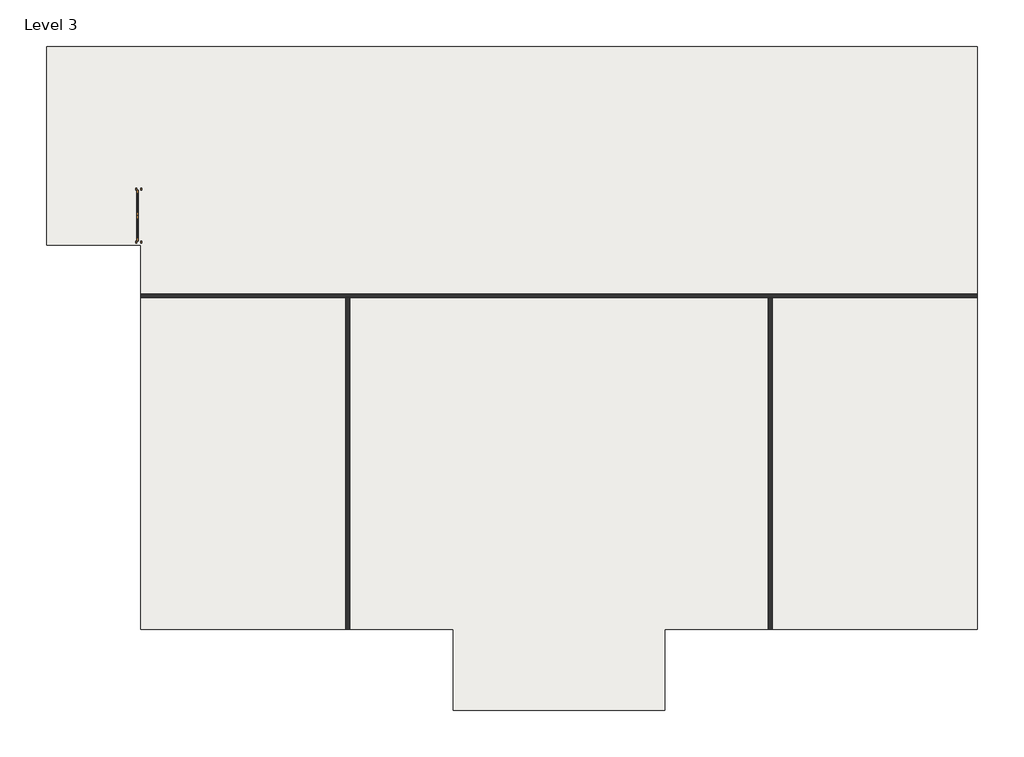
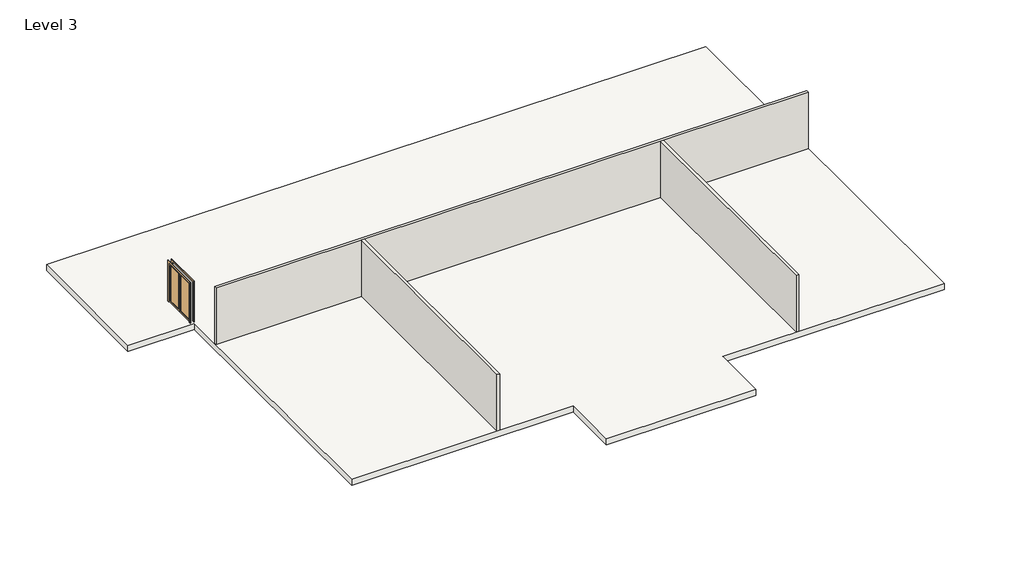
# One storey: 3 walls, 1 door, 1 slab.
"""IFC4 building model written with IfcOpenShell, lengths in millimetres."""

from ifc_helpers import new_model, si_unit, frame, origin, place, context, project, spatial, polyline, outline, extrude, faceted_brep, transform, mapped, element, save
from components import door_cb31edf2

model = new_model("IFC4")

# Units and contexts
model_context = context("Model", 3, world=origin())
ifc_project = project(units=[si_unit("LENGTHUNIT", "METRE", prefix="MILLI")], contexts=[model_context])

# Site, building, storey
site = spatial("IfcSite", under=ifc_project)
building = spatial("IfcBuilding", under=site)
storey = spatial("IfcBuildingStorey", under=building, Name="Level 3", Elevation=6096.0)

# Door
placement = place(None, origin())
door_shape = door_cb31edf2(model_context)
element("IfcDoor", 1, ObjectType="Door-Double-Glass : 72\" x 84\"", at=placement, inside=storey, context=model_context, shape_type="MappedRepresentation", body=[
    mapped(door_shape, transform((-18248.748632, 9505.1983604, 6096.0), x_axis=(0.0, 1.0, 0.0), y_axis=(-1.0, 0.0, 0.0), z_axis=(0.0, 0.0, 1.0))),
])

# Slab
element("IfcSlab", 2, ObjectType="Wood Truss  Joist 12\" - Carpet Finish ", at=placement, inside=storey, context=model_context, shape_type="SweptSolid", body=[
    extrude(outline(polyline([(12008.207618, 15610.7233604), (12008.207618, -5439.5266396), (721.082618, -5439.5266396), (721.082618, -8357.3516396), (-6898.917382, -8357.3516396), (-6898.917382, -5439.5266396), (-18186.042382, -5439.5266396), (-18186.042382, 8438.3983604), (-21580.117382, 8438.3983604), (-21580.117382, 15610.7233604), (12008.207618, 15610.7233604)])), frame((0.0, 0.0, 5772.15), z_axis=(0.0, 0.0, 1.0), x_axis=(1.0, 0.0, 0.0)), (0.0, 0.0, 1.0), 323.85),
])

# Walls
element("IfcWall", 3, ObjectType="Interior - 5 1/2\" Partition (1-hr)", at=placement, inside=storey, context=model_context, shape_type="Brep", body=[
    faceted_brep([(-18173.342382, 6539.7483604, 6096.0), (-10778.767382, 6539.7483604, 6096.0), (-10639.067382, 6539.7483604, 6096.0), (4461.232618, 6539.7483604, 6096.0), (4600.932618, 6539.7483604, 6096.0), (11995.507618, 6539.7483604, 6096.0), (11995.507618, 6539.7483604, 9144.0), (4600.932618, 6539.7483604, 9144.0), (4461.232618, 6539.7483604, 9144.0), (-10639.067382, 6539.7483604, 9144.0), (-10778.767382, 6539.7483604, 9144.0), (-18173.342382, 6539.7483604, 9144.0), (-18173.342382, 6679.4483604, 6096.0), (-18173.342382, 6679.4483604, 9144.0), (11995.507618, 6679.4483604, 9144.0), (11995.507618, 6679.4483604, 6096.0)], [[[0, 1, 2, 3, 4, 5, 6, 7, 8, 9, 10, 11]], [[12, 13, 14, 15]], [[5, 4, 3, 2, 1, 0, 12, 15]], [[11, 10, 9, 8, 7, 6, 14, 13]], [[6, 5, 15, 14]], [[0, 11, 13, 12]]]),
])
element("IfcWall", 4, ObjectType="Interior - 5 1/2\" Partition (1-hr)", at=placement, inside=storey, context=model_context, shape_type="SweptSolid", body=[
    extrude(outline(polyline([(4461.232618, -5426.8266396), (4461.232618, 6539.7483604), (4600.932618, 6539.7483604), (4600.932618, -5426.8266396), (4461.232618, -5426.8266396)])), frame((0.0, 0.0, 6096.0), z_axis=(0.0, 0.0, 1.0), x_axis=(1.0, 0.0, 0.0)), (0.0, 0.0, 1.0), 3048.0),
])
element("IfcWall", 5, ObjectType="Interior - 5 1/2\" Partition (1-hr)", at=placement, inside=storey, context=model_context, shape_type="SweptSolid", body=[
    extrude(outline(polyline([(-10778.767382, -5426.8266396), (-10778.767382, 6539.7483604), (-10639.067382, 6539.7483604), (-10639.067382, -5426.8266396), (-10778.767382, -5426.8266396)])), frame((0.0, 0.0, 6096.0), z_axis=(0.0, 0.0, 1.0), x_axis=(1.0, 0.0, 0.0)), (0.0, 0.0, 1.0), 3048.0),
])

save(model, "model.ifc")
